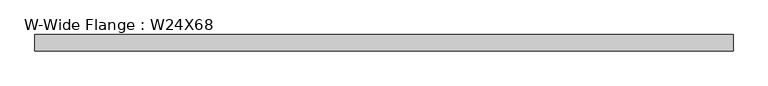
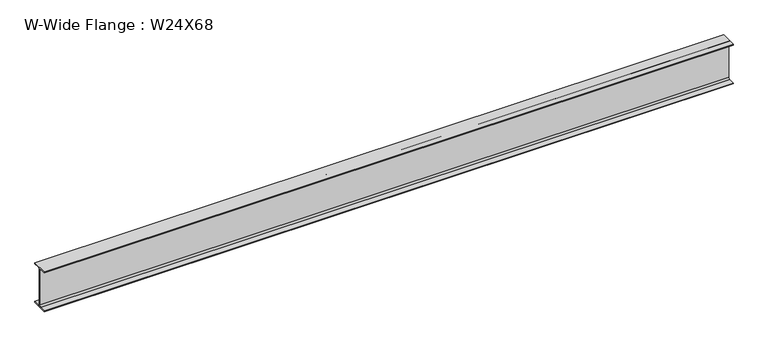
"""IFC4 building model written with IfcOpenShell, lengths in millimetres: beam geometry, W-Wide Flange : W24X68."""

from ifc_helpers import new_model, si_unit, point, frame, frame_2d, origin, place, context, project, spatial, polyline, circle_curve, trimmed, segment, composite_curve, outline, extrude, source, transform, mapped, element, save


def w_wide_flange_w24x68_85a517b7(model_context):
    return source(origin(), model_context, "Body", "SweptSolid", [
        extrude(outline(composite_curve([segment(polyline([(113.919, -286.131), (113.919, -300.99), (-113.919, -300.99), (-113.919, -286.131), (-28.5115, -286.131)]), True, "CONTINUOUS"), segment(trimmed(circle_curve(frame_2d((-28.5115, -262.89)), 23.241), [point((-28.5115, -286.131))], [point((-5.2705, -262.89))], True, "CARTESIAN"), True, "CONTINUOUS"), segment(polyline([(-5.2705, -262.89), (-5.2705, 262.89)]), True, "CONTINUOUS"), segment(trimmed(circle_curve(frame_2d((-28.5115, 262.89)), 23.241), [point((-5.2705, 262.89))], [point((-28.5115, 286.131))], True, "CARTESIAN"), True, "CONTINUOUS"), segment(polyline([(-28.5115, 286.131), (-113.919, 286.131), (-113.919, 300.99), (113.919, 300.99), (113.919, 286.131), (28.5115, 286.131)]), True, "CONTINUOUS"), segment(trimmed(circle_curve(frame_2d((28.5115, 262.89)), 23.241), [point((28.5115, 286.131))], [point((5.2705, 262.89))], True, "CARTESIAN"), True, "CONTINUOUS"), segment(polyline([(5.2705, 262.89), (5.2705, -262.89)]), True, "CONTINUOUS"), segment(trimmed(circle_curve(frame_2d((28.5115, -262.89)), 23.241), [point((5.2705, -262.89))], [point((28.5115, -286.131))], True, "CARTESIAN"), True, "CONTINUOUS"), segment(polyline([(28.5115, -286.131), (113.919, -286.131)]), True, "CONTINUOUS")], self_intersect=False)), frame((-4908.8675, 0.0, 0.0), z_axis=(1.0, 0.0, 0.0), x_axis=(0.0, 1.0, 0.0)), (0.0, 0.0, 1.0), 9827.26),
    ])


if __name__ == "__main__":
    model = new_model("IFC4")
    model_context = context("Model", 3, world=origin())
    ifc_project = project(units=[si_unit("LENGTHUNIT", "METRE", prefix="MILLI")], contexts=[model_context])
    site = spatial("IfcSite", under=ifc_project)
    building = spatial("IfcBuilding", under=site)
    placement = place(None, origin())
    w_wide_flange_w24x68_shape = w_wide_flange_w24x68_85a517b7(model_context)
    element("IfcBeam", 1, ObjectType="W-Wide Flange : W24X68", at=placement, inside=building, context=model_context, shape_type="MappedRepresentation", body=[
        mapped(w_wide_flange_w24x68_shape, transform((0.0, 0.0, 0.0), x_axis=(1.0, 0.0, 0.0), y_axis=(0.0, 1.0, 0.0), z_axis=(0.0, 0.0, 1.0))),
    ])
    save(model, "model.ifc")
